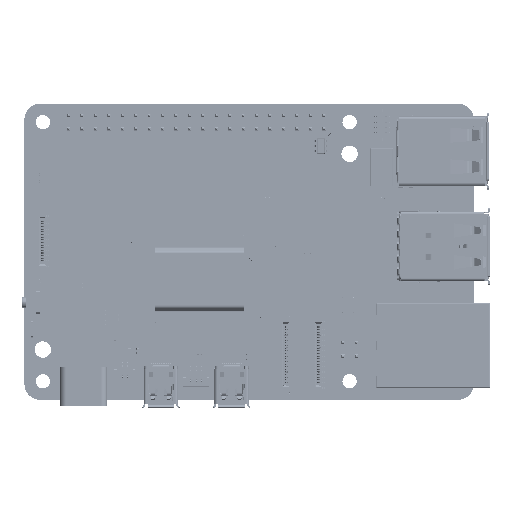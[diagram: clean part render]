
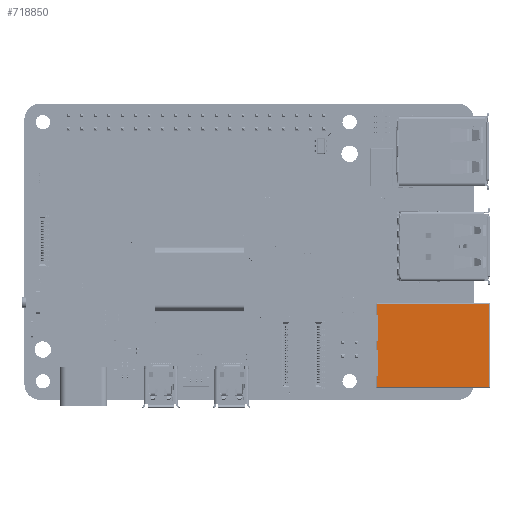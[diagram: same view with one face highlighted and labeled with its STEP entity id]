
A CAD part, top view. The second image highlights one B-rep face of the part: STEP entity #718850.
In plain terms, the highlighted planar face has unit normal (0, 0, 1).
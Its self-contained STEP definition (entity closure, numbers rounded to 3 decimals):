
#717557 = VERTEX_POINT('',#717558);
#717558 = CARTESIAN_POINT('',(10.62,-7.785,13.3));
#717565 = EDGE_CURVE('',#717566,#717557,#717568,.T.);
#717566 = VERTEX_POINT('',#717567);
#717567 = CARTESIAN_POINT('',(-10.62,-7.785,13.3));
#717568 = LINE('',#717569,#717570);
#717569 = CARTESIAN_POINT('',(-10.8,-7.785,13.3));
#717570 = VECTOR('',#717571,1.);
#717571 = DIRECTION('',(1.,0.,0.));
#717632 = VERTEX_POINT('',#717633);
#717633 = CARTESIAN_POINT('',(10.62,5.8,13.3));
#717640 = EDGE_CURVE('',#717632,#717641,#717643,.T.);
#717641 = VERTEX_POINT('',#717642);
#717642 = CARTESIAN_POINT('',(10.3,5.8,13.3));
#717643 = LINE('',#717644,#717645);
#717644 = CARTESIAN_POINT('',(10.8,5.8,13.3));
#717645 = VECTOR('',#717646,1.);
#717646 = DIRECTION('',(-1.,0.,0.));
#717664 = EDGE_CURVE('',#717665,#717641,#717667,.T.);
#717665 = VERTEX_POINT('',#717666);
#717666 = CARTESIAN_POINT('',(10.3,0.8,13.3));
#717667 = LINE('',#717668,#717669);
#717668 = CARTESIAN_POINT('',(10.3,0.8,13.3));
#717669 = VECTOR('',#717670,1.);
#717670 = DIRECTION('',(0.,1.,0.));
#717687 = EDGE_CURVE('',#717688,#717665,#717690,.T.);
#717688 = VERTEX_POINT('',#717689);
#717689 = CARTESIAN_POINT('',(10.62,0.8,13.3));
#717690 = LINE('',#717691,#717692);
#717691 = CARTESIAN_POINT('',(10.8,0.8,13.3));
#717692 = VECTOR('',#717693,1.);
#717693 = DIRECTION('',(-1.,0.,0.));
#717747 = VERTEX_POINT('',#717748);
#717748 = CARTESIAN_POINT('',(10.62,-0.8,13.3));
#717755 = EDGE_CURVE('',#717747,#717756,#717758,.T.);
#717756 = VERTEX_POINT('',#717757);
#717757 = CARTESIAN_POINT('',(10.3,-0.8,13.3));
#717758 = LINE('',#717759,#717760);
#717759 = CARTESIAN_POINT('',(10.8,-0.8,13.3));
#717760 = VECTOR('',#717761,1.);
#717761 = DIRECTION('',(-1.,0.,0.));
#717778 = EDGE_CURVE('',#717756,#717779,#717781,.T.);
#717779 = VERTEX_POINT('',#717780);
#717780 = CARTESIAN_POINT('',(10.3,-5.8,13.3));
#717781 = LINE('',#717782,#717783);
#717782 = CARTESIAN_POINT('',(10.3,-0.8,13.3));
#717783 = VECTOR('',#717784,1.);
#717784 = DIRECTION('',(-0.,-1.,0.));
#717802 = EDGE_CURVE('',#717803,#717779,#717805,.T.);
#717803 = VERTEX_POINT('',#717804);
#717804 = CARTESIAN_POINT('',(10.62,-5.8,13.3));
#717805 = LINE('',#717806,#717807);
#717806 = CARTESIAN_POINT('',(10.8,-5.8,13.3));
#717807 = VECTOR('',#717808,1.);
#717808 = DIRECTION('',(-1.,0.,0.));
#718850 = ADVANCED_FACE('',(#718851),#718894,.T.);
#718851 = FACE_BOUND('',#718852,.T.);
#718852 = EDGE_LOOP('',(#718853,#718861,#718869,#718875,#718876,#718882,
    #718883,#718884,#718885,#718891,#718892,#718893));
#718853 = ORIENTED_EDGE('',*,*,#718854,.T.);
#718854 = EDGE_CURVE('',#717632,#718855,#718857,.T.);
#718855 = VERTEX_POINT('',#718856);
#718856 = CARTESIAN_POINT('',(10.62,7.785,13.3));
#718857 = LINE('',#718858,#718859);
#718858 = CARTESIAN_POINT('',(10.62,-7.965,13.3));
#718859 = VECTOR('',#718860,1.);
#718860 = DIRECTION('',(0.,1.,0.));
#718861 = ORIENTED_EDGE('',*,*,#718862,.T.);
#718862 = EDGE_CURVE('',#718855,#718863,#718865,.T.);
#718863 = VERTEX_POINT('',#718864);
#718864 = CARTESIAN_POINT('',(-10.62,7.785,13.3));
#718865 = LINE('',#718866,#718867);
#718866 = CARTESIAN_POINT('',(10.8,7.785,13.3));
#718867 = VECTOR('',#718868,1.);
#718868 = DIRECTION('',(-1.,0.,0.));
#718869 = ORIENTED_EDGE('',*,*,#718870,.T.);
#718870 = EDGE_CURVE('',#718863,#717566,#718871,.T.);
#718871 = LINE('',#718872,#718873);
#718872 = CARTESIAN_POINT('',(-10.62,7.965,13.3));
#718873 = VECTOR('',#718874,1.);
#718874 = DIRECTION('',(0.,-1.,0.));
#718875 = ORIENTED_EDGE('',*,*,#717565,.T.);
#718876 = ORIENTED_EDGE('',*,*,#718877,.T.);
#718877 = EDGE_CURVE('',#717557,#717803,#718878,.T.);
#718878 = LINE('',#718879,#718880);
#718879 = CARTESIAN_POINT('',(10.62,-7.965,13.3));
#718880 = VECTOR('',#718881,1.);
#718881 = DIRECTION('',(0.,1.,0.));
#718882 = ORIENTED_EDGE('',*,*,#717802,.T.);
#718883 = ORIENTED_EDGE('',*,*,#717778,.F.);
#718884 = ORIENTED_EDGE('',*,*,#717755,.F.);
#718885 = ORIENTED_EDGE('',*,*,#718886,.T.);
#718886 = EDGE_CURVE('',#717747,#717688,#718887,.T.);
#718887 = LINE('',#718888,#718889);
#718888 = CARTESIAN_POINT('',(10.62,-7.965,13.3));
#718889 = VECTOR('',#718890,1.);
#718890 = DIRECTION('',(0.,1.,0.));
#718891 = ORIENTED_EDGE('',*,*,#717687,.T.);
#718892 = ORIENTED_EDGE('',*,*,#717664,.T.);
#718893 = ORIENTED_EDGE('',*,*,#717640,.F.);
#718894 = PLANE('',#718895);
#718895 = AXIS2_PLACEMENT_3D('',#718896,#718897,#718898);
#718896 = CARTESIAN_POINT('',(0.,0.,13.3));
#718897 = DIRECTION('',(0.,0.,1.));
#718898 = DIRECTION('',(1.,0.,-0.));
